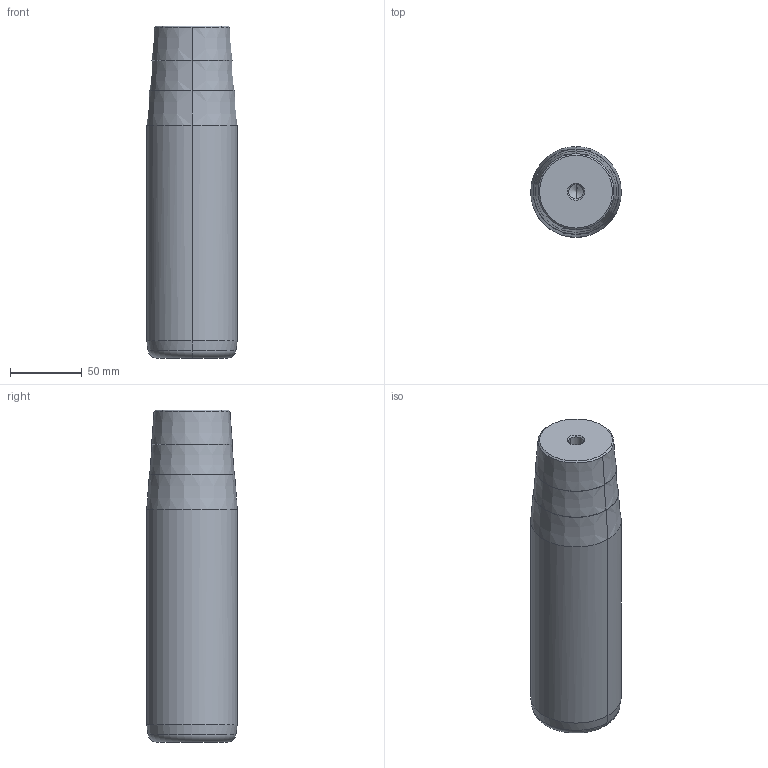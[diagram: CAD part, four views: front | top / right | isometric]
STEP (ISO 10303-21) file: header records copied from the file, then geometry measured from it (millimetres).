
FILE_DESCRIPTION(('CATIA V5 STEP Exchange'),'2;1');
FILE_NAME('C:\Users\Utente\Desktop\IO LAVORO\3D X SITO CF\X SITO\722\722-63x180x231.stp','2021-01-07T19:25:49+00:00',('none'),('none'),'CATIA Version 5 Release 20 GA (IN-10)','CATIA V5 STEP AP203','none');
FILE_SCHEMA(('CONFIG_CONTROL_DESIGN'));
Length unit declared in the file: millimetre
Products named in the file (1): 722-63x180x231
Bounding box: 63 x 63 x 231 mm (x, y, z)
Volume: 678294.6 mm3; surface area: 50968 mm2
Topology: 1 solids, 1 shells, 32 faces, 98 edges, 66 vertices
Faces by surface type: cone 22, cylinder 6, plane 2, torus 2
Entity records: 1172 total; most frequent: CARTESIAN_POINT 285, ORIENTED_EDGE 188, DIRECTION 148, EDGE_CURVE 94, AXIS2_PLACEMENT_3D 89, VERTEX_POINT 66, CIRCLE 56, EDGE_LOOP 34
